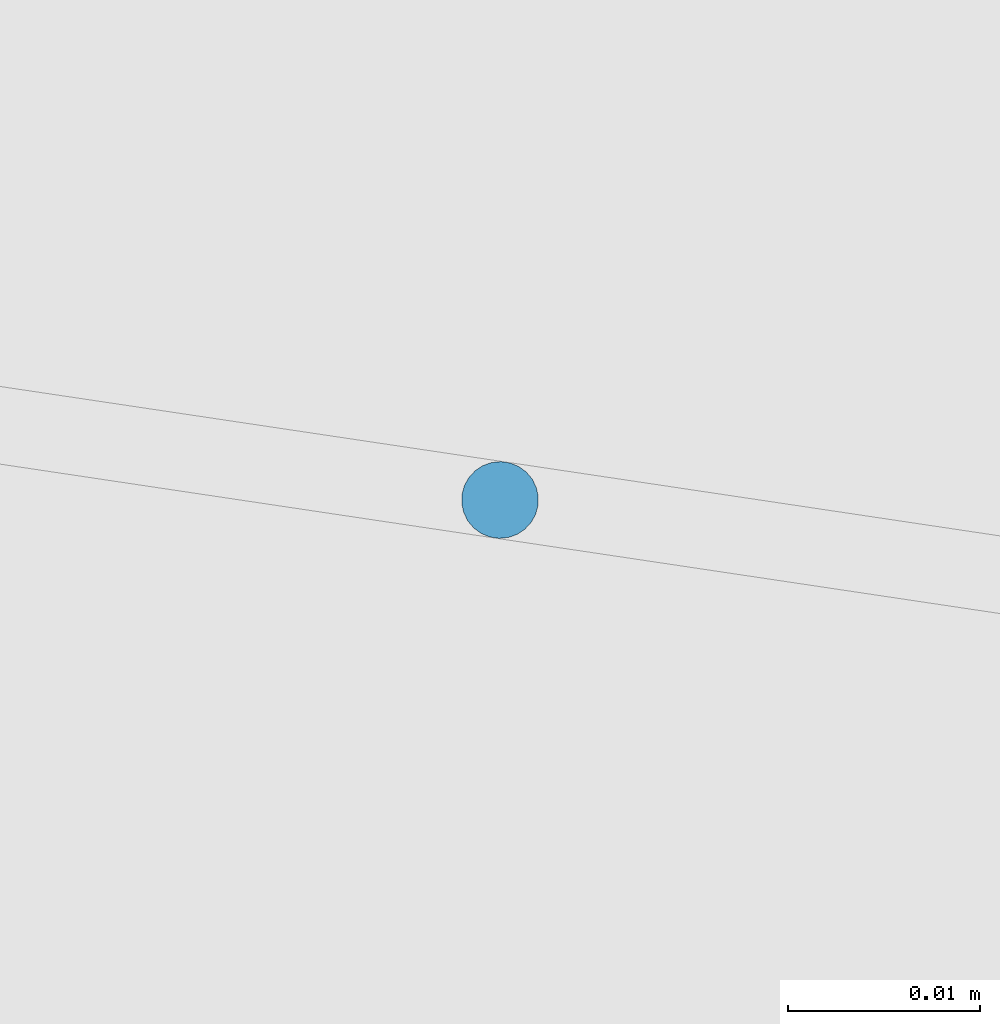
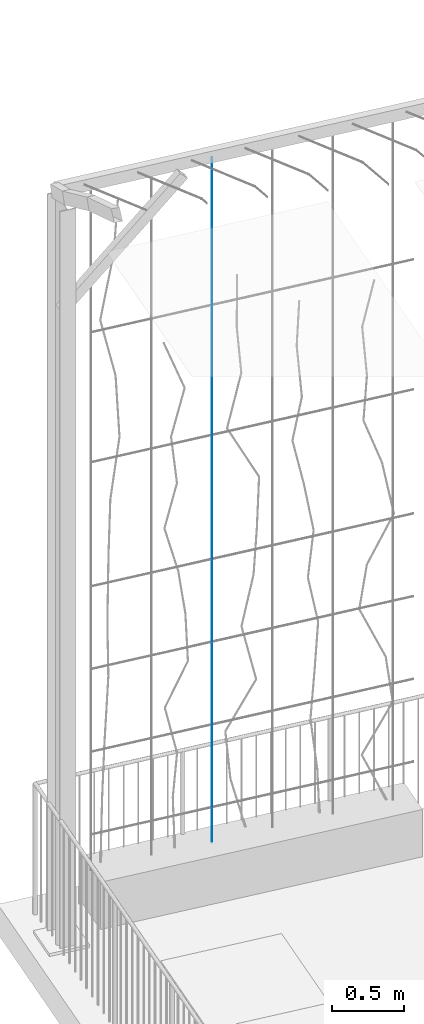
# One storey, part 33 of 142: 1 member, 1 element without a shape of its own.
"""IFC4 building model written with IfcOpenShell, lengths in metres."""

from ifc_helpers import new_model, si_unit, direction, frame, origin_with_axes, place, context, subcontext, project, spatial, circle, extrude, material, material_profile, profile_set, profile_usage, type_object, element, aggregate, save


model = new_model("IFC4")

# Units and contexts
model_context = context("Model", 3, precision=1e-05, world=origin_with_axes(), true_north=direction((0.0, 1.0)))
body_context = subcontext(model_context, "Body", "Model", "MODEL_VIEW")
ifc_project = project(units=[si_unit("AREAUNIT", "SQUARE_METRE"), si_unit("VOLUMEUNIT", "CUBIC_METRE"), si_unit("LENGTHUNIT", "METRE")], contexts=[model_context])

# Site, building, storey
site_placement = place(None, origin_with_axes())
site = spatial("IfcSite", under=ifc_project, at=site_placement, Name="Lares · Rua das Mercês · artigo 4771")
building_placement = place(site_placement, frame((15.0, 9.7, 14.65), z_axis=(0.0, 0.0, 1.0), x_axis=(0.989015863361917, -0.147809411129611, 0.0)))
building = spatial("IfcBuilding", under=site, at=building_placement, Name="Casa Sobreposta")
storey_placement = place(building_placement, origin_with_axes())
storey = spatial("IfcBuildingStorey", under=building, at=storey_placement, Name="00 · Habitação e estacionamento", Elevation=14.65)

# Assembly, member
assembly_placement = place(storey_placement, origin_with_axes())
assembly = element("IfcElementAssembly", 1, at=assembly_placement, inside=storey, Name="Fachada sul e pátio · estrutura e trepadeiras", ObjectType="LIVING_SHADE_TRELLIS", PredefinedType="USERDEFINED")
ifc_material = material(Name="Aço galvanizado / Stahl verzinkt", Category="steel")
ifc_material_profile = material_profile(ifc_material, circle(Radius=0.002))
ifc_profile_set = profile_set([ifc_material_profile], Name="D0.004")
ifc_profile_usage = profile_usage(ifc_profile_set)
member_type = type_object("IfcMemberType", Name="D0.004 / galvanized", PredefinedType="NOTDEFINED", material=ifc_profile_set)
member_placement = place(assembly_placement, frame((-4.8, 6.48, 0.35), z_axis=(0.0, 0.0, 1.0), x_axis=(1.0, 0.0, 0.0)))
member = element("IfcMember", 2, at=member_placement, type_object=member_type, material=ifc_profile_usage, Name="Trepadeiras · fio vertical", context=body_context, shape_type="SweptSolid", body=[
    extrude(circle(Radius=0.002), origin_with_axes(), (0.0, 0.0, 1.0), 5.8),
])
aggregate(assembly, [member])

save(model, "model.ifc")
